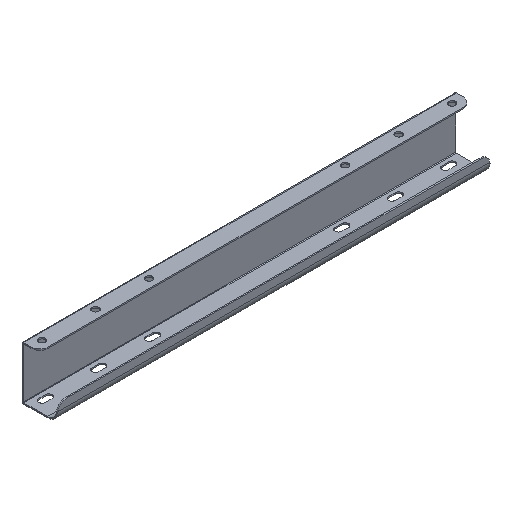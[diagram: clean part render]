
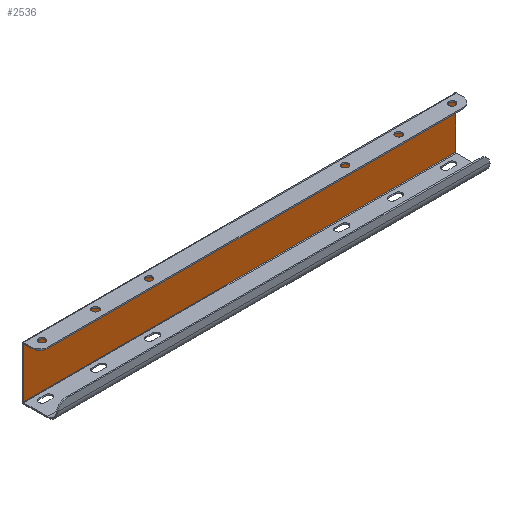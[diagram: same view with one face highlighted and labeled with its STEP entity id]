
A CAD part, isometric view. The second image highlights one B-rep face of the part: STEP entity #2536.
In plain terms, the highlighted planar face has unit normal (0, -1, 0).
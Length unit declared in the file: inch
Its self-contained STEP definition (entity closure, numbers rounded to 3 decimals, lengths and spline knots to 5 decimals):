
#198=CARTESIAN_POINT('',(0.03882,1.95244,0.102));
#199=VERTEX_POINT('',#198);
#207=CARTESIAN_POINT('',(0.03882,1.95244,2.898));
#208=VERTEX_POINT('',#207);
#209=CARTESIAN_POINT('',(0.03882,1.95244,0.102));
#210=DIRECTION('',(0.0,0.0,1.0));
#211=VECTOR('',#210,2.796);
#212=LINE('',#209,#211);
#213=EDGE_CURVE('',#199,#208,#212,.T.);
#520=CARTESIAN_POINT('',(24.28882,1.95244,2.898));
#521=VERTEX_POINT('',#520);
#529=CARTESIAN_POINT('',(24.28882,1.95244,0.102));
#530=VERTEX_POINT('',#529);
#531=CARTESIAN_POINT('',(24.28882,1.95244,2.898));
#532=DIRECTION('',(0.0,0.0,-1.0));
#533=VECTOR('',#532,2.796);
#534=LINE('',#531,#533);
#535=EDGE_CURVE('',#521,#530,#534,.T.);
#2493=CARTESIAN_POINT('',(24.28882,1.95244,2.898));
#2494=DIRECTION('',(-1.0,0.0,0.0));
#2495=VECTOR('',#2494,24.25);
#2496=LINE('',#2493,#2495);
#2497=EDGE_CURVE('',#521,#208,#2496,.T.);
#2520=CARTESIAN_POINT('',(12.16382,1.95244,1.536));
#2521=DIRECTION('',(0.0,1.0,0.0));
#2522=DIRECTION('',(0.0,0.0,1.0));
#2523=AXIS2_PLACEMENT_3D('',#2520,#2521,#2522);
#2524=PLANE('',#2523);
#2525=ORIENTED_EDGE('',*,*,#2497,.T.);
#2526=ORIENTED_EDGE('',*,*,#213,.F.);
#2527=CARTESIAN_POINT('',(24.28882,1.95244,0.102));
#2528=DIRECTION('',(-1.0,0.0,0.0));
#2529=VECTOR('',#2528,24.25);
#2530=LINE('',#2527,#2529);
#2531=EDGE_CURVE('',#530,#199,#2530,.T.);
#2532=ORIENTED_EDGE('',*,*,#2531,.F.);
#2533=ORIENTED_EDGE('',*,*,#535,.F.);
#2534=EDGE_LOOP('',(#2525,#2526,#2532,#2533));
#2535=FACE_OUTER_BOUND('',#2534,.T.);
#2536=ADVANCED_FACE('',(#2535),#2524,.F.);
